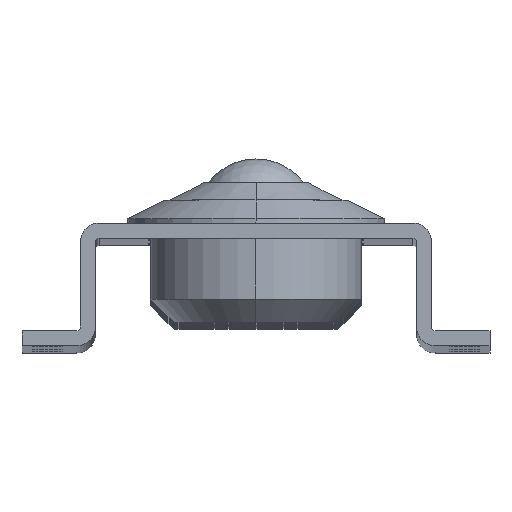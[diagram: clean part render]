
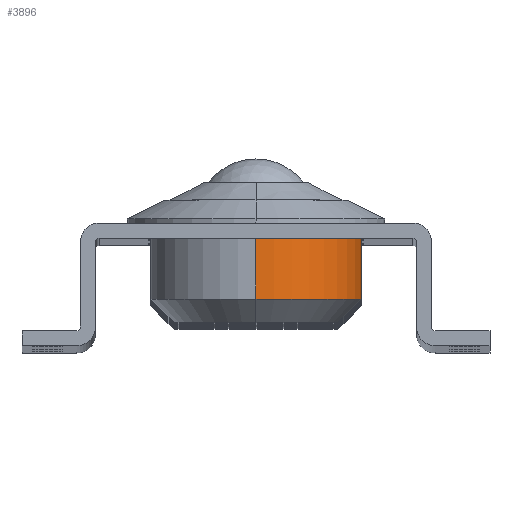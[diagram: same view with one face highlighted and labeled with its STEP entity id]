
A CAD part, top view. The second image highlights one B-rep face of the part: STEP entity #3896.
In plain terms, the highlighted cylindrical face has radius 22.5 mm (diameter 45 mm), a partial arc.
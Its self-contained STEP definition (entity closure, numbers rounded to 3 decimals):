
#29 = ORIENTED_EDGE ( 'NONE', *, *, #8856, .T. ) ;
#145 = CARTESIAN_POINT ( 'NONE',  ( 0., 10., -50. ) ) ;
#186 = CARTESIAN_POINT ( 'NONE',  ( 0., 10., -27.5 ) ) ;
#588 = DIRECTION ( 'NONE',  ( 0., 1., 0. ) ) ;
#1047 = EDGE_CURVE ( 'NONE', #9984, #1148, #5236, .T. ) ;
#1055 = DIRECTION ( 'NONE',  ( 0., 0., 1. ) ) ;
#1148 = VERTEX_POINT ( 'NONE', #2776 ) ;
#1785 = CIRCLE ( 'NONE', #8531, 22.5 ) ;
#1827 = AXIS2_PLACEMENT_3D ( 'NONE', #145, #6355, #1055 ) ;
#2315 = CARTESIAN_POINT ( 'NONE',  ( 0., 40., -27.5 ) ) ;
#2342 = ORIENTED_EDGE ( 'NONE', *, *, #1047, .T. ) ;
#2454 = VECTOR ( 'NONE', #588, 1000. ) ;
#2776 = CARTESIAN_POINT ( 'NONE',  ( 0., 26.2, -72.5 ) ) ;
#3896 = ADVANCED_FACE ( 'NONE', ( #11359 ), #11076, .T. ) ;
#3948 = CARTESIAN_POINT ( 'NONE',  ( 0., 26.2, -50. ) ) ;
#4170 = EDGE_CURVE ( 'NONE', #10960, #1148, #1785, .T. ) ;
#4811 = DIRECTION ( 'NONE',  ( 0., 0., 1. ) ) ;
#5186 = VERTEX_POINT ( 'NONE', #186 ) ;
#5236 = LINE ( 'NONE', #11303, #7351 ) ;
#5243 = DIRECTION ( 'NONE',  ( 0., 0., 1. ) ) ;
#5949 = DIRECTION ( 'NONE',  ( 0., 1., 0. ) ) ;
#6355 = DIRECTION ( 'NONE',  ( 0., 1., 0. ) ) ;
#6377 = AXIS2_PLACEMENT_3D ( 'NONE', #11504, #7950, #5243 ) ;
#7154 = LINE ( 'NONE', #2315, #2454 ) ;
#7244 = CARTESIAN_POINT ( 'NONE',  ( 0., 10., -72.5 ) ) ;
#7351 = VECTOR ( 'NONE', #5949, 1000. ) ;
#7848 = CIRCLE ( 'NONE', #1827, 22.5 ) ;
#7950 = DIRECTION ( 'NONE',  ( 0., 1., 0. ) ) ;
#8000 = CARTESIAN_POINT ( 'NONE',  ( 0., 26.2, -27.5 ) ) ;
#8233 = EDGE_LOOP ( 'NONE', ( #29, #2342, #9384, #9365 ) ) ;
#8531 = AXIS2_PLACEMENT_3D ( 'NONE', #3948, #10149, #4811 ) ;
#8856 = EDGE_CURVE ( 'NONE', #5186, #9984, #7848, .T. ) ;
#9098 = EDGE_CURVE ( 'NONE', #5186, #10960, #7154, .T. ) ;
#9365 = ORIENTED_EDGE ( 'NONE', *, *, #9098, .F. ) ;
#9384 = ORIENTED_EDGE ( 'NONE', *, *, #4170, .F. ) ;
#9984 = VERTEX_POINT ( 'NONE', #7244 ) ;
#10149 = DIRECTION ( 'NONE',  ( 0., 1., 0. ) ) ;
#10960 = VERTEX_POINT ( 'NONE', #8000 ) ;
#11076 = CYLINDRICAL_SURFACE ( 'NONE', #6377, 22.5 ) ;
#11303 = CARTESIAN_POINT ( 'NONE',  ( 0., 40., -72.5 ) ) ;
#11359 = FACE_OUTER_BOUND ( 'NONE', #8233, .T. ) ;
#11504 = CARTESIAN_POINT ( 'NONE',  ( 0., 40., -50. ) ) ;
